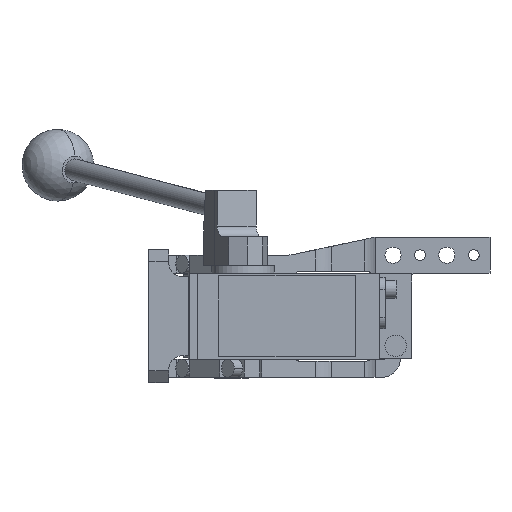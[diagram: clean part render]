
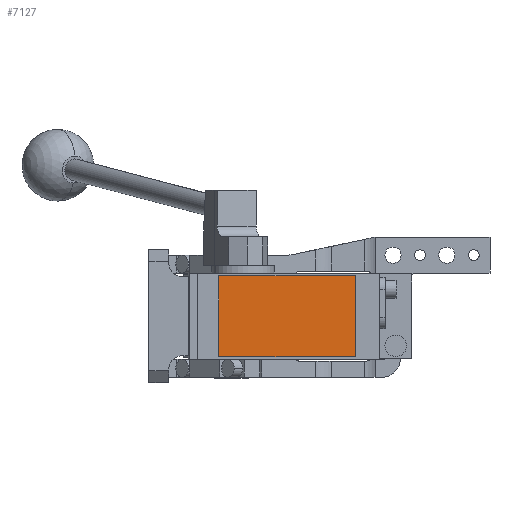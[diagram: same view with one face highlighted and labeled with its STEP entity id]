
A CAD part, front view. The second image highlights one B-rep face of the part: STEP entity #7127.
In plain terms, the highlighted planar face has unit normal (0, -1, 0).
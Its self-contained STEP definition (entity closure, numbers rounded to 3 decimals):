
#102 = VECTOR ( 'NONE', #10270, 1000. ) ;
#313 = VERTEX_POINT ( 'NONE', #2671 ) ;
#1255 = CARTESIAN_POINT ( 'NONE',  ( -7., -280.5, 22.5 ) ) ;
#1602 = FACE_OUTER_BOUND ( 'NONE', #6288, .T. ) ;
#2671 = CARTESIAN_POINT ( 'NONE',  ( 69., -280.5, 22.5 ) ) ;
#3089 = ORIENTED_EDGE ( 'NONE', *, *, #5206, .T. ) ;
#4191 = DIRECTION ( 'NONE',  ( -1., 0., 0. ) ) ;
#4481 = VECTOR ( 'NONE', #15334, 1000. ) ;
#4582 = DIRECTION ( 'NONE',  ( 0., 0., -1. ) ) ;
#4660 = DIRECTION ( 'NONE',  ( 0., -1., 0. ) ) ;
#5206 = EDGE_CURVE ( 'NONE', #10445, #13486, #5237, .T. ) ;
#5237 = LINE ( 'NONE', #10185, #102 ) ;
#5892 = VECTOR ( 'NONE', #4191, 1000. ) ;
#6288 = EDGE_LOOP ( 'NONE', ( #12227, #3089, #14297, #13784 ) ) ;
#6351 = LINE ( 'NONE', #12330, #5892 ) ;
#6627 = PLANE ( 'NONE',  #13644 ) ;
#7127 = ADVANCED_FACE ( 'NONE', ( #1602 ), #6627, .T. ) ;
#7184 = EDGE_CURVE ( 'NONE', #313, #15315, #6351, .T. ) ;
#7389 = CARTESIAN_POINT ( 'NONE',  ( -7., -280.5, 22.5 ) ) ;
#7855 = CARTESIAN_POINT ( 'NONE',  ( 69., -280.5, -22.5 ) ) ;
#10185 = CARTESIAN_POINT ( 'NONE',  ( -7., -280.5, -22.5 ) ) ;
#10270 = DIRECTION ( 'NONE',  ( 1., 0., 0. ) ) ;
#10445 = VERTEX_POINT ( 'NONE', #14848 ) ;
#10951 = LINE ( 'NONE', #1255, #14450 ) ;
#11122 = DIRECTION ( 'NONE',  ( 0., 0., -1. ) ) ;
#11549 = CARTESIAN_POINT ( 'NONE',  ( 0., -280.5, 0. ) ) ;
#11778 = CARTESIAN_POINT ( 'NONE',  ( 69., -280.5, 22.5 ) ) ;
#11814 = EDGE_CURVE ( 'NONE', #15315, #10445, #10951, .T. ) ;
#12227 = ORIENTED_EDGE ( 'NONE', *, *, #11814, .T. ) ;
#12330 = CARTESIAN_POINT ( 'NONE',  ( -7., -280.5, 22.5 ) ) ;
#13486 = VERTEX_POINT ( 'NONE', #7855 ) ;
#13644 = AXIS2_PLACEMENT_3D ( 'NONE', #11549, #4660, #4582 ) ;
#13784 = ORIENTED_EDGE ( 'NONE', *, *, #7184, .T. ) ;
#13847 = EDGE_CURVE ( 'NONE', #13486, #313, #15504, .T. ) ;
#14297 = ORIENTED_EDGE ( 'NONE', *, *, #13847, .T. ) ;
#14450 = VECTOR ( 'NONE', #11122, 1000. ) ;
#14848 = CARTESIAN_POINT ( 'NONE',  ( -7., -280.5, -22.5 ) ) ;
#15315 = VERTEX_POINT ( 'NONE', #7389 ) ;
#15334 = DIRECTION ( 'NONE',  ( 0., 0., 1. ) ) ;
#15504 = LINE ( 'NONE', #11778, #4481 ) ;
